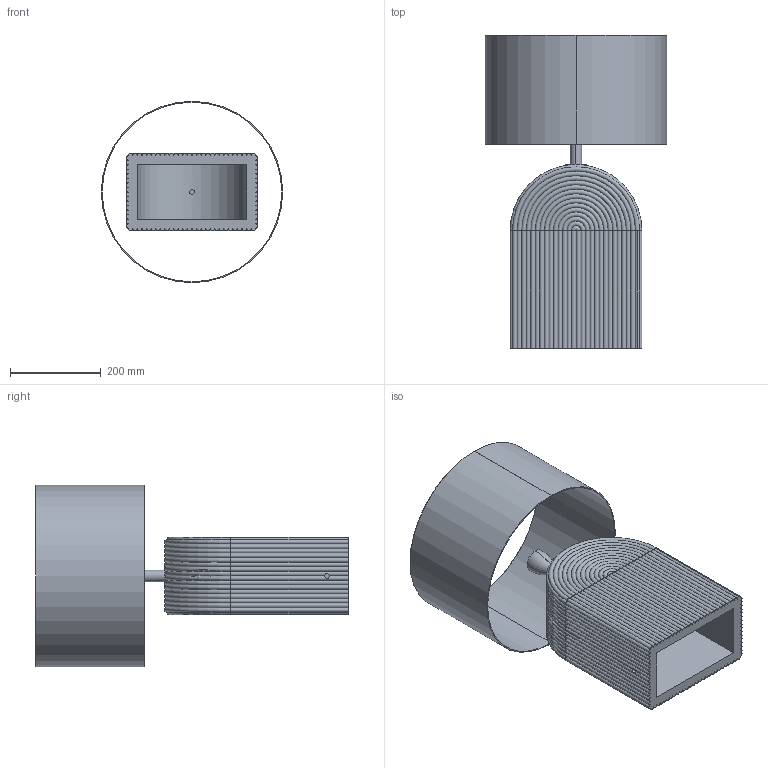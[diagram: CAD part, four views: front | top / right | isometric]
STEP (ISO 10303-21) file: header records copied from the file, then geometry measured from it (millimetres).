
FILE_DESCRIPTION (( 'STEP AP214' ), '1' );
FILE_NAME ('LOPO_NAC137.STEP', '2024-09-18T09:27:08', ( '' ), ( '' ), 'SwSTEP 2.0', 'SolidWorks 2018', '' );
FILE_SCHEMA (( 'AUTOMOTIVE_DESIGN' ));
Length unit declared in the file: millimetre
Products named in the file (1): LOPO_NAC137
Bounding box: 400 x 690 x 400 mm (x, y, z)
Volume: 8442146.6 mm3; surface area: 1492783.9 mm2
Topology: 2 solids, 2 shells, 171 faces, 416 edges, 250 vertices
Faces by surface type: cylinder 106, torus 50, plane 15
Entity records: 5777 total; most frequent: CARTESIAN_POINT 1528, DIRECTION 1004, ORIENTED_EDGE 832, AXIS2_PLACEMENT_3D 442, EDGE_CURVE 416, CIRCLE 270, VERTEX_POINT 250, EDGE_LOOP 188
